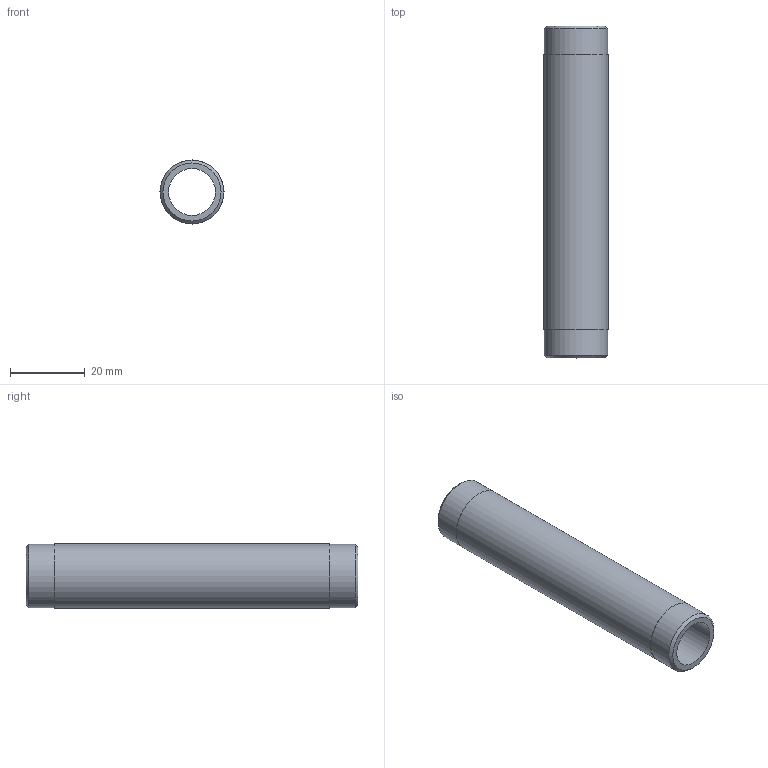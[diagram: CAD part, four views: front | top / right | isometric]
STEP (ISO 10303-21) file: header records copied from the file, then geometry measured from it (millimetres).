
FILE_DESCRIPTION(/* description */ (''),/* implementation_level */ '2;1');
FILE_NAME(/* name */ 'C:/Users/drich/Desktop/SSPN38-3-1_2 v1.step',/* time_stamp */ '2020-01-04T13:57:08-06:00',/* author */ (''),/* organization */ (''),/* preprocessor_version */ 'ST-DEVELOPER v18',/* originating_system */ 'Autodesk Translation Framework v8.12.0.6',/* authorisation */ '');
FILE_SCHEMA (('AUTOMOTIVE_DESIGN { 1 0 10303 214 3 1 1 }'));
Length unit declared in the file: inch
Products named in the file (1): SSPN38-3-1_2
Bounding box: 17.14 x 88.9 x 17.14 mm (x, y, z)
Volume: 9524.7 mm3; surface area: 8449.2 mm2
Topology: 1 solids, 1 shells, 10 faces, 24 edges, 18 vertices
Faces by surface type: cylinder 4, plane 4, cone 2
Full cylindrical faces by diameter (mm): 12.522 x1, 17.094 x2, 17.145 x1
Entity records: 353 total; most frequent: DIRECTION 64, CARTESIAN_POINT 53, ORIENTED_EDGE 48, AXIS2_PLACEMENT_3D 29, EDGE_CURVE 24, CIRCLE 18, VERTEX_POINT 18, EDGE_LOOP 14
